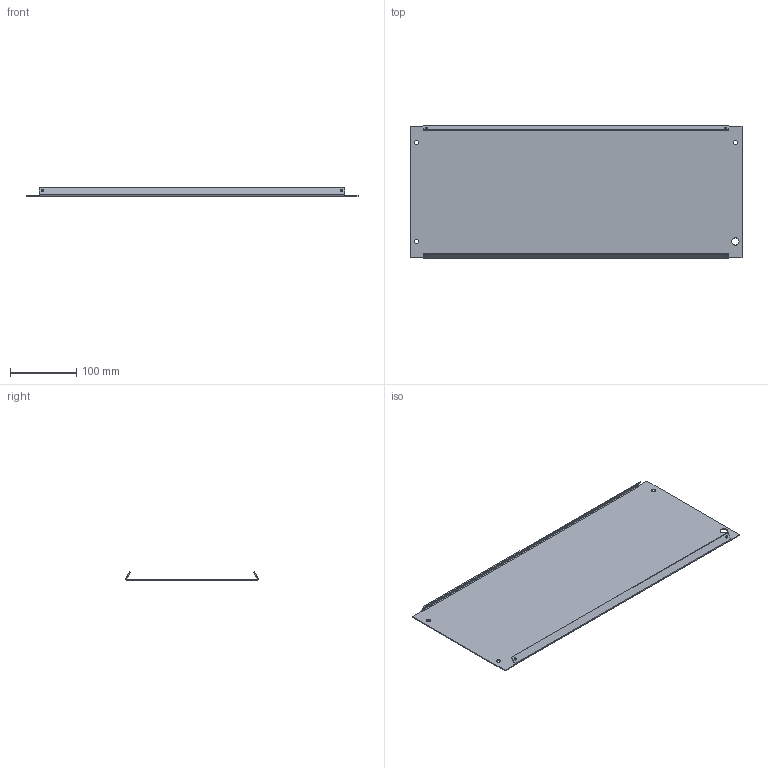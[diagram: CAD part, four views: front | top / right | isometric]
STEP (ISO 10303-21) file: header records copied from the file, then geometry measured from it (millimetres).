
FILE_DESCRIPTION (( 'STEP AP214' ), '1' );
FILE_NAME ('MSMBP2006R5.STEP', '2015-11-12T12:53:56', ( '' ), ( '' ), 'SwSTEP 2.0', 'SolidWorks 2014', '' );
FILE_SCHEMA (( 'AUTOMOTIVE_DESIGN' ));
Length unit declared in the file: millimetre
Products named in the file (1): MSMBP2006R5
Bounding box: 503 x 200.42 x 12.82 mm (x, y, z)
Volume: 139802.2 mm3; surface area: 225679.4 mm2
Topology: 1 solids, 1 shells, 42 faces, 116 edges, 76 vertices
Faces by surface type: plane 22, cylinder 20
Entity records: 1418 total; most frequent: DIRECTION 246, CARTESIAN_POINT 235, ORIENTED_EDGE 232, EDGE_CURVE 116, AXIS2_PLACEMENT_3D 87, VERTEX_POINT 76, VECTOR 72, LINE 72
